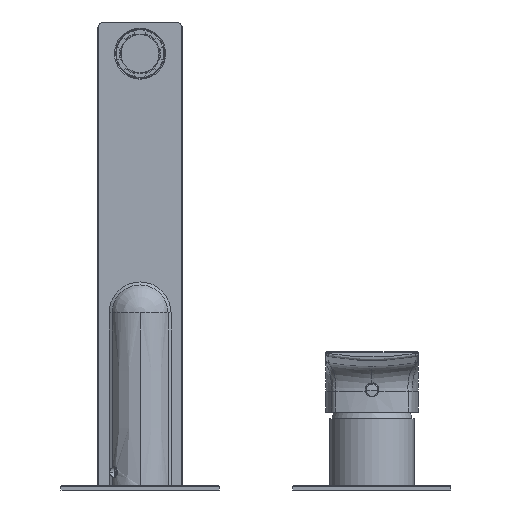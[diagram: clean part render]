
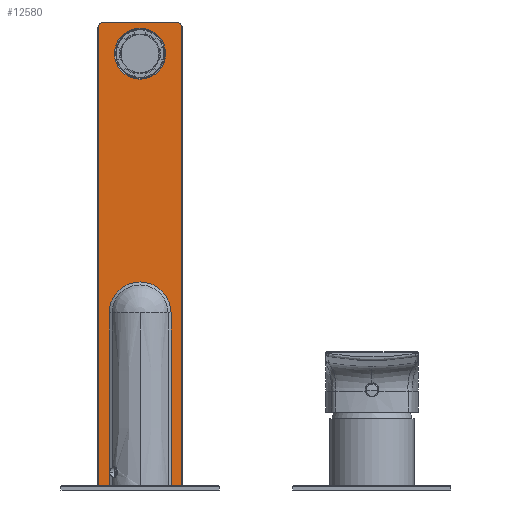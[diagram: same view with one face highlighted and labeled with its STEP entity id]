
A CAD part, front view. The second image highlights one B-rep face of the part: STEP entity #12580.
In plain terms, the highlighted planar face has unit normal (0, -1, 0).
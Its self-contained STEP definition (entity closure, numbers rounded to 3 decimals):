
#4711=DIRECTION('',(-1.,0.,0.));
#4712=VECTOR('',#4711,4.922);
#4713=CARTESIAN_POINT('',(-126.68,-1.5,45.7));
#4714=LINE('',#4713,#4712);
#4737=DIRECTION('',(-1.,0.,0.));
#4738=VECTOR('',#4737,4.922);
#4739=CARTESIAN_POINT('',(-92.398,-1.5,45.7));
#4740=LINE('',#4739,#4738);
#4844=CARTESIAN_POINT('',(-92.398,-1.5,264.193));
#4846=DIRECTION('',(0.,0.,1.));
#4847=VECTOR('',#4846,218.493);
#4848=CARTESIAN_POINT('',(-131.602,-1.5,45.7));
#4849=LINE('',#4848,#4847);
#4850=CARTESIAN_POINT('',(-129.,-1.5,262.7));
#4851=DIRECTION('',(0.,-1.,0.));
#4852=DIRECTION('',(0.,0.,1.));
#4853=AXIS2_PLACEMENT_3D('',#4850,#4851,#4852);
#4855=CARTESIAN_POINT('',(-95.,-1.5,262.7));
#4856=DIRECTION('',(0.,-1.,0.));
#4857=DIRECTION('',(0.867,0.,0.498));
#4858=AXIS2_PLACEMENT_3D('',#4855,#4856,#4857);
#4860=DIRECTION('',(0.,0.,-1.));
#4861=VECTOR('',#4860,218.493);
#4862=CARTESIAN_POINT('',(-92.398,-1.5,264.193));
#4863=LINE('',#4862,#4861);
#4864=CARTESIAN_POINT('',(-112.,-1.5,250.7));
#4865=DIRECTION('',(0.,1.,0.));
#4866=DIRECTION('',(0.,0.,1.));
#4867=AXIS2_PLACEMENT_3D('',#4864,#4865,#4866);
#4869=CARTESIAN_POINT('',(-112.,-1.5,250.7));
#4870=DIRECTION('',(0.,1.,0.));
#4871=DIRECTION('',(0.,0.,-1.));
#4872=AXIS2_PLACEMENT_3D('',#4869,#4870,#4871);
#4874=DIRECTION('',(0.,0.,1.));
#4875=VECTOR('',#4874,82.);
#4876=CARTESIAN_POINT('',(-97.32,-1.5,45.7));
#4877=LINE('',#4876,#4875);
#4983=DIRECTION('',(0.,0.,-1.));
#4984=VECTOR('',#4983,82.);
#4985=CARTESIAN_POINT('',(-126.68,-1.5,127.7));
#4986=LINE('',#4985,#4984);
#5011=CARTESIAN_POINT('',(-112.,-1.5,127.7));
#5012=DIRECTION('',(0.,-1.,0.));
#5013=DIRECTION('',(1.,0.,0.));
#5014=AXIS2_PLACEMENT_3D('',#5011,#5012,#5013);
#5576=DIRECTION('',(-1.,0.,0.));
#5577=VECTOR('',#5576,34.);
#5578=CARTESIAN_POINT('',(-95.,-1.5,265.7));
#5579=LINE('',#5578,#5577);
#9376=CARTESIAN_POINT('',(-112.,-1.5,262.8));
#9377=CARTESIAN_POINT('',(-112.,-1.5,238.6));
#9378=VERTEX_POINT('',#9376);
#9379=VERTEX_POINT('',#9377);
#9453=CARTESIAN_POINT('',(-97.32,-1.5,127.7));
#9454=VERTEX_POINT('',#9453);
#9455=CARTESIAN_POINT('',(-126.68,-1.5,127.7));
#9456=VERTEX_POINT('',#9455);
#9464=VERTEX_POINT('',#4844);
#9465=CARTESIAN_POINT('',(-95.,-1.5,265.7));
#9466=VERTEX_POINT('',#9465);
#9467=CARTESIAN_POINT('',(-129.,-1.5,265.7));
#9468=CARTESIAN_POINT('',(-131.602,-1.5,264.193));
#9469=VERTEX_POINT('',#9467);
#9470=VERTEX_POINT('',#9468);
#9481=CARTESIAN_POINT('',(-92.398,-1.5,45.7));
#9482=CARTESIAN_POINT('',(-97.32,-1.5,45.7));
#9483=VERTEX_POINT('',#9481);
#9484=VERTEX_POINT('',#9482);
#9485=CARTESIAN_POINT('',(-126.68,-1.5,45.7));
#9486=CARTESIAN_POINT('',(-131.602,-1.5,45.7));
#9487=VERTEX_POINT('',#9485);
#9488=VERTEX_POINT('',#9486);
#12550=CARTESIAN_POINT('',(-92.,-1.5,265.7));
#12551=DIRECTION('',(0.,-1.,0.));
#12552=DIRECTION('',(-1.,0.,0.));
#12553=AXIS2_PLACEMENT_3D('',#12550,#12551,#12552);
#12554=PLANE('',#12553);
#12556=ORIENTED_EDGE('',*,*,#12555,.T.);
#12558=ORIENTED_EDGE('',*,*,#12557,.T.);
#12560=ORIENTED_EDGE('',*,*,#12559,.T.);
#12561=ORIENTED_EDGE('',*,*,#12439,.T.);
#12563=ORIENTED_EDGE('',*,*,#12562,.T.);
#12565=ORIENTED_EDGE('',*,*,#12564,.F.);
#12567=ORIENTED_EDGE('',*,*,#12566,.F.);
#12569=ORIENTED_EDGE('',*,*,#12568,.F.);
#12570=ORIENTED_EDGE('',*,*,#12542,.T.);
#12571=ORIENTED_EDGE('',*,*,#12449,.T.);
#12572=EDGE_LOOP('',(#12556,#12558,#12560,#12561,#12563,#12565,#12567,#12569,
#12570,#12571));
#12573=FACE_OUTER_BOUND('',#12572,.F.);
#12575=ORIENTED_EDGE('',*,*,#12574,.F.);
#12577=ORIENTED_EDGE('',*,*,#12576,.F.);
#12578=EDGE_LOOP('',(#12575,#12577));
#12579=FACE_BOUND('',#12578,.F.);
#12580=ADVANCED_FACE('',(#12573,#12579),#12554,.T.);
#4854=CIRCLE('',#4853,3.);
#4859=CIRCLE('',#4858,3.);
#4868=CIRCLE('',#4867,12.1);
#4873=CIRCLE('',#4872,12.1);
#5015=CIRCLE('',#5014,14.68);
#12439=EDGE_CURVE('',#9487,#9488,#4714,.T.);
#12449=EDGE_CURVE('',#9483,#9484,#4740,.T.);
#12542=EDGE_CURVE('',#9464,#9483,#4863,.T.);
#12555=EDGE_CURVE('',#9484,#9454,#4877,.T.);
#12557=EDGE_CURVE('',#9454,#9456,#5015,.T.);
#12559=EDGE_CURVE('',#9456,#9487,#4986,.T.);
#12562=EDGE_CURVE('',#9488,#9470,#4849,.T.);
#12564=EDGE_CURVE('',#9469,#9470,#4854,.T.);
#12566=EDGE_CURVE('',#9466,#9469,#5579,.T.);
#12568=EDGE_CURVE('',#9464,#9466,#4859,.T.);
#12574=EDGE_CURVE('',#9378,#9379,#4868,.T.);
#12576=EDGE_CURVE('',#9379,#9378,#4873,.T.);
